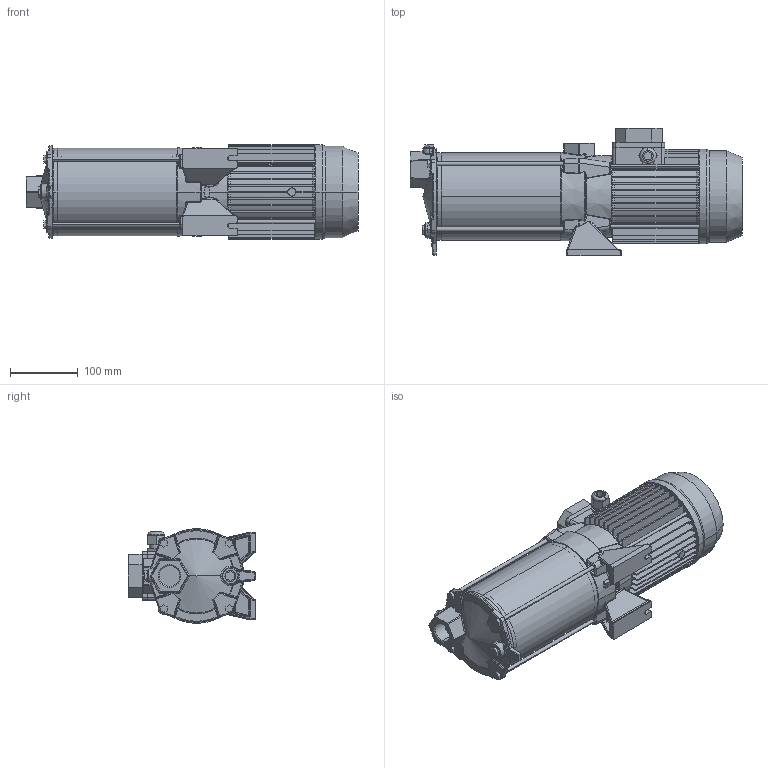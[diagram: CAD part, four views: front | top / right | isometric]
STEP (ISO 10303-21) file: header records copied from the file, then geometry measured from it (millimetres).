
FILE_DESCRIPTION((''),'2;1');
FILE_NAME('COMPACT_L_A_15_ASM','2019-10-04T',('rosa'),('"Ebara Pumps Europe +39.444.706811"'),'PRO/ENGINEER BY PARAMETRIC TECHNOLOGY CORPORATION, 2017170','PRO/ENGINEER BY PARAMETRIC TECHNOLOGY CORPORATION, 2017170','');
FILE_SCHEMA(('AUTOMOTIVE_DESIGN { 1 0 10303 214 1 1 1 1 }'));
Length unit declared in the file: millimetre
Products named in the file (6): MEC_71X110_IE2; 80585; 2710X_L-176_8; 20998; 40012_M6X215; COMPACT_L_A_15_ASM
Assembly tree (8 placements, depth 2):
  COMPACT_L_A_15_ASM
    MEC_71X110_IE2
    80585
    2710X_L-176_8
    20998
    40012_M6X215  x4
Bounding box: 491.3 x 188.5 x 140.4 mm (x, y, z)
Volume: 2851130.1 mm3; surface area: 587170.8 mm2
Topology: 8 solids, 8 shells, 1262 faces, 2989 edges, 1766 vertices
Faces by surface type: plane 418, cylinder 329, bspline 324, cone 88, torus 66, sphere 37
Entity records: 60565 total; most frequent: CARTESIAN_POINT 24371, ORIENTED_EDGE 5830, DIRECTION 4972, PRESENTATION_STYLE_ASSIGNMENT 2920, STYLED_ITEM 2920, CURVE_STYLE 2915, EDGE_CURVE 2915, AXIS2_PLACEMENT_3D 1949
